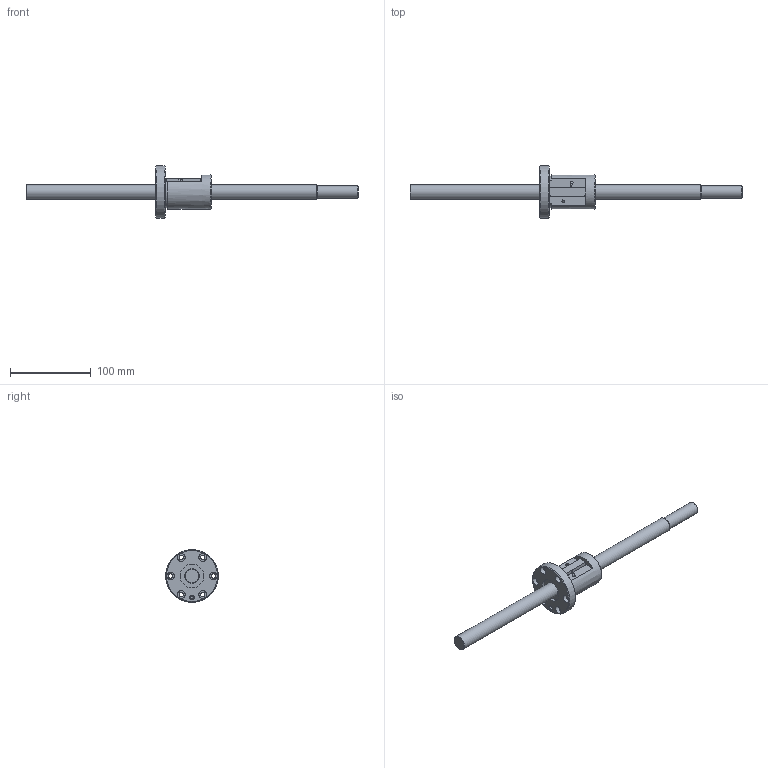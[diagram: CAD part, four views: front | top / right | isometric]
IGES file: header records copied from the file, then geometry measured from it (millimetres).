
Start section: Data from Parasolid IGES Translator 26.0.171, Copyright(c) 2006 Siemens PLM Software. All Rights Reserved.
Global section: file name: BNF1810-2.5RRG1+410LC5A(00).igs; native system: By Siemens PLM Incorporated; preprocessor: XPlus GENERIC/IGES 26.0.171; author: Noname; organization: Noname; date: 20240715.074117; units: millimetre
Bounding box: 410 x 65 x 65 mm (x, y, z)
Surface area: 45748.2 mm2 (no closed solid volume)
Topology: 0 solids, 0 shells, 67 faces, 304 edges, 274 vertices
Faces by surface type: revolution 43, extrusion 24
